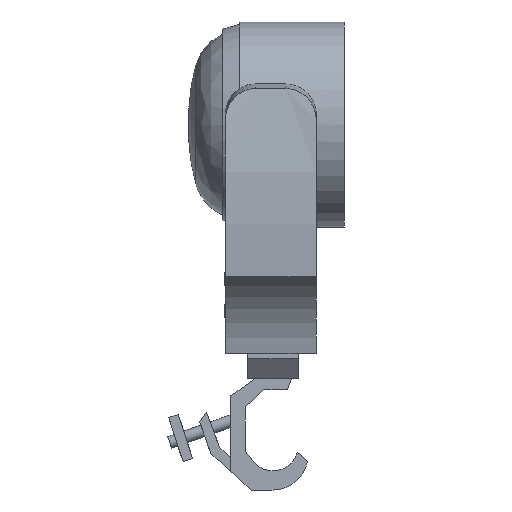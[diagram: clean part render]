
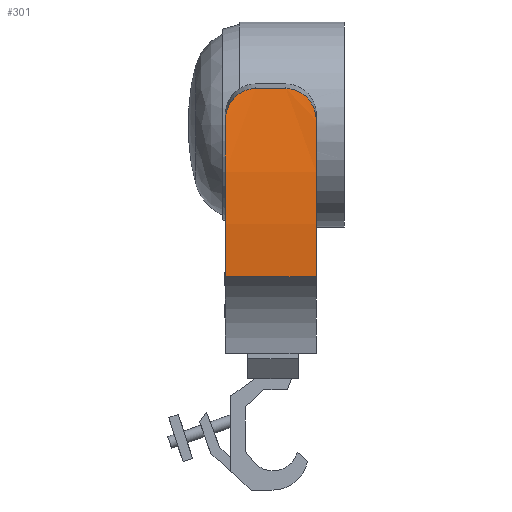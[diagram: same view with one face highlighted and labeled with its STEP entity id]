
A CAD part, front view. The second image highlights one B-rep face of the part: STEP entity #301.
In plain terms, the highlighted cylindrical face has radius 625.522 mm (diameter 1251.04 mm), a partial arc.
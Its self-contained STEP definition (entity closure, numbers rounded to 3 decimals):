
#301 = ADVANCED_FACE( '', ( #632 ), #633, .T. );
#632 = FACE_OUTER_BOUND( '', #1072, .T. );
#633 = CYLINDRICAL_SURFACE( '', #1073, 625.522 );
#1072 = EDGE_LOOP( '', ( #1656, #1657, #1658, #1659, #1660, #1661 ) );
#1073 = AXIS2_PLACEMENT_3D( '', #1662, #1663, #1664 );
#1656 = ORIENTED_EDGE( '', *, *, #2304, .T. );
#1657 = ORIENTED_EDGE( '', *, *, #2441, .T. );
#1658 = ORIENTED_EDGE( '', *, *, #2461, .F. );
#1659 = ORIENTED_EDGE( '', *, *, #2419, .T. );
#1660 = ORIENTED_EDGE( '', *, *, #2462, .F. );
#1661 = ORIENTED_EDGE( '', *, *, #2463, .T. );
#1662 = CARTESIAN_POINT( '', ( -90., 477.752, 32.837 ) );
#1663 = DIRECTION( '', ( -1., 0., 0. ) );
#1664 = DIRECTION( '', ( 0., 0., -1. ) );
#2304 = EDGE_CURVE( '', #2665, #2663, #2666, .T. );
#2419 = EDGE_CURVE( '', #2862, #2863, #2864, .T. );
#2441 = EDGE_CURVE( '', #2663, #2898, #2899, .T. );
#2461 = EDGE_CURVE( '', #2862, #2898, #2928, .T. );
#2462 = EDGE_CURVE( '', #2929, #2863, #2930, .T. );
#2463 = EDGE_CURVE( '', #2929, #2665, #2931, .T. );
#2663 = VERTEX_POINT( '', #3193 );
#2665 = VERTEX_POINT( '', #3196 );
#2666 = CIRCLE( '', #3197, 625.522 );
#2862 = VERTEX_POINT( '', #3664 );
#2863 = VERTEX_POINT( '', #3665 );
#2864 = B_SPLINE_CURVE_WITH_KNOTS( '', 3, ( #3666, #3667, #3668, #3669, #3670, #3671, #3672, #3673, #3674, #3675, #3676, #3677, #3678, #3679, #3680, #3681, #3682, #3683, #3684, #3685, #3686, #3687, #3688, #3689, #3690, #3691, #3692, #3693, #3694, #3695 ), .UNSPECIFIED., .F., .F., ( 4, 2, 2, 2, 2, 2, 2, 2, 2, 2, 2, 2, 2, 2, 4 ), ( 0., 0.006, 0.009, 0.011, 0.012, 0.018, 0.02, 0.021, 0.024, 0.027, 0.03, 0.036, 0.039, 0.042, 0.048 ), .UNSPECIFIED. );
#2898 = VERTEX_POINT( '', #3741 );
#2899 = B_SPLINE_CURVE_WITH_KNOTS( '', 3, ( #3742, #3743, #3744, #3745, #3746, #3747, #3748, #3749, #3750, #3751, #3752, #3753, #3754, #3755, #3756, #3757, #3758, #3759, #3760, #3761, #3762, #3763, #3764, #3765, #3766, #3767, #3768, #3769, #3770, #3771 ), .UNSPECIFIED., .F., .F., ( 4, 2, 2, 2, 2, 2, 2, 2, 2, 2, 2, 2, 2, 2, 4 ), ( 0., 0.006, 0.009, 0.011, 0.012, 0.018, 0.021, 0.024, 0.03, 0.033, 0.035, 0.036, 0.042, 0.045, 0.048 ), .UNSPECIFIED. );
#2928 = LINE( '', #3811, #3812 );
#2929 = VERTEX_POINT( '', #3813 );
#2930 = CIRCLE( '', #3814, 625.522 );
#2931 = LINE( '', #3815, #3816 );
#3193 = CARTESIAN_POINT( '', ( 0., -139.604, 133.583 ) );
#3196 = CARTESIAN_POINT( '', ( 0., -145.458, -20.903 ) );
#3197 = AXIS2_PLACEMENT_3D( '', #4210, #4211, #4212 );
#3664 = CARTESIAN_POINT( '', ( -60., -133.62, 165.132 ) );
#3665 = CARTESIAN_POINT( '', ( -90., -139.604, 133.583 ) );
#3666 = CARTESIAN_POINT( '', ( -60., -133.62, 165.132 ) );
#3667 = CARTESIAN_POINT( '', ( -62.051, -133.62, 165.132 ) );
#3668 = CARTESIAN_POINT( '', ( -64.063, -133.668, 164.912 ) );
#3669 = CARTESIAN_POINT( '', ( -67.025, -133.807, 164.269 ) );
#3670 = CARTESIAN_POINT( '', ( -68.003, -133.864, 164.002 ) );
#3671 = CARTESIAN_POINT( '', ( -69.456, -133.967, 163.521 ) );
#3672 = CARTESIAN_POINT( '', ( -69.937, -134.004, 163.347 ) );
#3673 = CARTESIAN_POINT( '', ( -70.884, -134.083, 162.977 ) );
#3674 = CARTESIAN_POINT( '', ( -71.351, -134.124, 162.78 ) );
#3675 = CARTESIAN_POINT( '', ( -73.652, -134.345, 161.74 ) );
#3676 = CARTESIAN_POINT( '', ( -75.39, -134.558, 160.726 ) );
#3677 = CARTESIAN_POINT( '', ( -77.438, -134.866, 159.236 ) );
#3678 = CARTESIAN_POINT( '', ( -77.842, -134.93, 158.926 ) );
#3679 = CARTESIAN_POINT( '', ( -78.63, -135.061, 158.29 ) );
#3680 = CARTESIAN_POINT( '', ( -79.015, -135.128, 157.963 ) );
#3681 = CARTESIAN_POINT( '', ( -80.141, -135.332, 156.958 ) );
#3682 = CARTESIAN_POINT( '', ( -80.854, -135.475, 156.254 ) );
#3683 = CARTESIAN_POINT( '', ( -82.21, -135.769, 154.781 ) );
#3684 = CARTESIAN_POINT( '', ( -82.853, -135.922, 154.012 ) );
#3685 = CARTESIAN_POINT( '', ( -84.066, -136.236, 152.41 ) );
#3686 = CARTESIAN_POINT( '', ( -84.639, -136.398, 151.572 ) );
#3687 = CARTESIAN_POINT( '', ( -86.221, -136.891, 149.007 ) );
#3688 = CARTESIAN_POINT( '', ( -87.103, -137.226, 147.219 ) );
#3689 = CARTESIAN_POINT( '', ( -88.178, -137.738, 144.422 ) );
#3690 = CARTESIAN_POINT( '', ( -88.494, -137.91, 143.471 ) );
#3691 = CARTESIAN_POINT( '', ( -89.042, -138.255, 141.529 ) );
#3692 = CARTESIAN_POINT( '', ( -89.269, -138.427, 140.551 ) );
#3693 = CARTESIAN_POINT( '', ( -89.815, -138.939, 137.598 ) );
#3694 = CARTESIAN_POINT( '', ( -90., -139.274, 135.604 ) );
#3695 = CARTESIAN_POINT( '', ( -90., -139.604, 133.583 ) );
#3741 = CARTESIAN_POINT( '', ( -30., -133.62, 165.132 ) );
#3742 = CARTESIAN_POINT( '', ( 0., -139.604, 133.583 ) );
#3743 = CARTESIAN_POINT( '', ( 0., -139.274, 135.606 ) );
#3744 = CARTESIAN_POINT( '', ( -0.185, -138.939, 137.596 ) );
#3745 = CARTESIAN_POINT( '', ( -0.728, -138.43, 140.535 ) );
#3746 = CARTESIAN_POINT( '', ( -0.953, -138.259, 141.507 ) );
#3747 = CARTESIAN_POINT( '', ( -1.359, -138.002, 142.952 ) );
#3748 = CARTESIAN_POINT( '', ( -1.506, -137.916, 143.432 ) );
#3749 = CARTESIAN_POINT( '', ( -1.822, -137.743, 144.388 ) );
#3750 = CARTESIAN_POINT( '', ( -1.993, -137.657, 144.865 ) );
#3751 = CARTESIAN_POINT( '', ( -2.893, -137.227, 147.213 ) );
#3752 = CARTESIAN_POINT( '', ( -3.777, -136.892, 149.002 ) );
#3753 = CARTESIAN_POINT( '', ( -5.346, -136.403, 151.549 ) );
#3754 = CARTESIAN_POINT( '', ( -5.91, -136.242, 152.376 ) );
#3755 = CARTESIAN_POINT( '', ( -7.123, -135.928, 153.982 ) );
#3756 = CARTESIAN_POINT( '', ( -7.774, -135.773, 154.764 ) );
#3757 = CARTESIAN_POINT( '', ( -9.818, -135.328, 156.986 ) );
#3758 = CARTESIAN_POINT( '', ( -11.309, -135.056, 158.32 ) );
#3759 = CARTESIAN_POINT( '', ( -13.742, -134.689, 160.096 ) );
#3760 = CARTESIAN_POINT( '', ( -14.586, -134.573, 160.651 ) );
#3761 = CARTESIAN_POINT( '', ( -15.905, -134.411, 161.422 ) );
#3762 = CARTESIAN_POINT( '', ( -16.352, -134.36, 161.668 ) );
#3763 = CARTESIAN_POINT( '', ( -17.254, -134.261, 162.134 ) );
#3764 = CARTESIAN_POINT( '', ( -17.709, -134.215, 162.355 ) );
#3765 = CARTESIAN_POINT( '', ( -20.008, -133.994, 163.397 ) );
#3766 = CARTESIAN_POINT( '', ( -21.919, -133.857, 164.035 ) );
#3767 = CARTESIAN_POINT( '', ( -24.899, -133.716, 164.689 ) );
#3768 = CARTESIAN_POINT( '', ( -25.915, -133.68, 164.855 ) );
#3769 = CARTESIAN_POINT( '', ( -27.951, -133.632, 165.076 ) );
#3770 = CARTESIAN_POINT( '', ( -28.973, -133.62, 165.132 ) );
#3771 = CARTESIAN_POINT( '', ( -30., -133.62, 165.132 ) );
#3811 = CARTESIAN_POINT( '', ( -90., -133.62, 165.132 ) );
#3812 = VECTOR( '', #4383, 1000. );
#3813 = CARTESIAN_POINT( '', ( -90., -145.458, -20.903 ) );
#3814 = AXIS2_PLACEMENT_3D( '', #4384, #4385, #4386 );
#3815 = CARTESIAN_POINT( '', ( -90., -145.458, -20.903 ) );
#3816 = VECTOR( '', #4387, 1000. );
#4210 = CARTESIAN_POINT( '', ( 0., 477.752, 32.837 ) );
#4211 = DIRECTION( '', ( -1., 0., 0. ) );
#4212 = DIRECTION( '', ( 0., 1., 0. ) );
#4383 = DIRECTION( '', ( 1., 0., 0. ) );
#4384 = CARTESIAN_POINT( '', ( -90., 477.752, 32.837 ) );
#4385 = DIRECTION( '', ( -1., 0., 0. ) );
#4386 = DIRECTION( '', ( 0., 1., 0. ) );
#4387 = DIRECTION( '', ( 1., 0., 0. ) );
